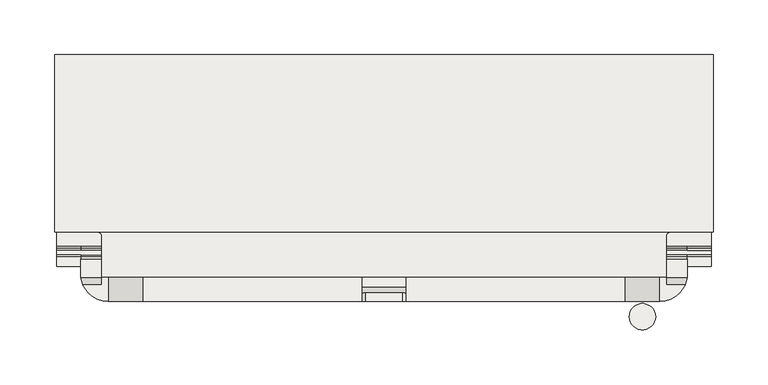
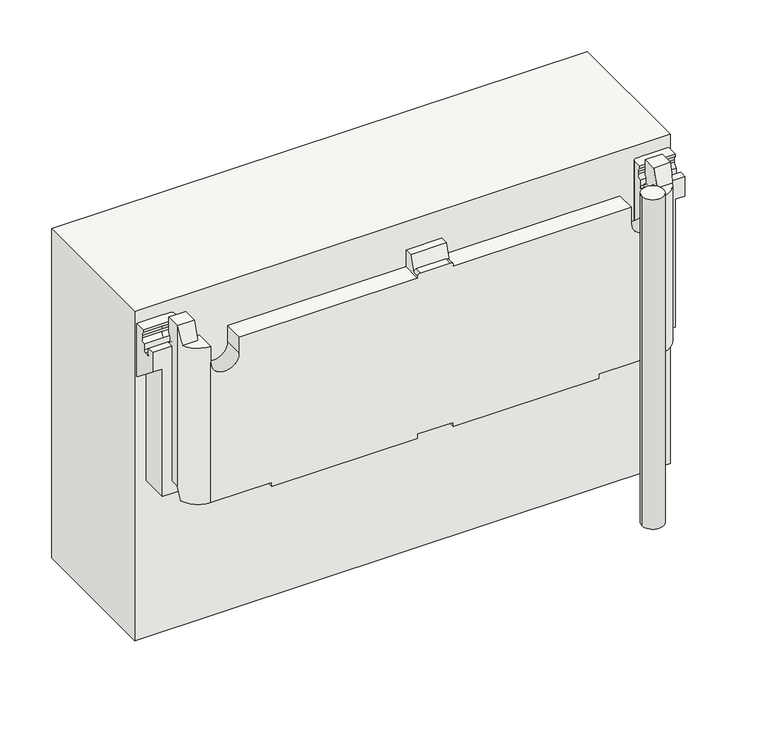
"""IFC4 building model written with IfcOpenShell, lengths in millimetres: covering geometry, panel VP Modulo prova ultima texture : panel VP Modulo prova ultima texture."""

from ifc_helpers import new_model, si_unit, point, frame, frame_2d, origin, origin_with_axes, place, context, project, spatial, polyline, circle_curve, ellipse_curve, trimmed, segment, composite_curve, outline, extrude, source, transform, mapped, element, save
from ifc_brep_helpers import plane_surface, cylinder_surface, revolved_surface, advanced_brep


def covering_14e27d56(model_context):
    return source(origin(), model_context, "Body", "SolidModel", [
        advanced_brep(
        [(-20.0, 40.503817, 390.3791993), (-20.0, 49.5015434, 390.3791993), (-20.0, 49.5015434, 370.3821425), (-20.0, 27.5015432, 370.3821425), (-20.0, 27.5015432, 372.3821424), (-20.0, 34.5021229, 372.3821424), (20.0, 49.5015434, 390.3791993), (20.0, 40.503817, 390.3791993), (20.0, 34.5021229, 372.3821424), (20.0, 27.5015432, 372.3821424), (20.0, 27.5015432, 370.3821425), (20.0, 49.5015434, 370.3821425), (-17.0, 35.5025688, 375.3821424), (17.0, 35.5025688, 375.3821424), (17.0, 27.5015432, 375.3821424), (-17.0, 27.5015432, 375.3821424), (-276.2404059, 49.5015434, 390.3770182), (-276.2404059, 65.772467, 390.3770182), (-276.2404059, 65.772467, 372.4339741), (-276.2404059, 63.7739273, 367.538463), (-276.2404059, 63.7739273, 364.538463), (-276.2404059, 67.7745502, 359.8422632), (-276.2404059, 59.5, 359.8422632), (-276.2404059, 59.5, 200.3778557), (-276.2404059, 49.5015434, 200.3778557), (276.2404059, 67.7745502, 359.8422632), (276.2404059, 63.7739273, 364.538463), (276.2404059, 63.7739273, 367.538463), (276.2404059, 65.772467, 372.4339741), (276.2404059, 65.772467, 390.3770182), (276.2404059, 49.5015434, 390.3770182), (276.2404059, 49.5015434, 200.3778557), (276.2404059, 59.5, 200.3778557), (276.2404059, 59.5, 359.8422632), (219.5404059, 27.5015432, 370.3821425), (219.5404059, 49.5015434, 370.3821425), (257.5404059, 42.6167555, 370.3821425), (257.5404059, 49.5015434, 370.3821425), (251.5404059, 49.5015434, 370.3821425), (251.5404059, 27.5015432, 370.3821425), (274.4146377, 42.6167555, 370.3821425), (-251.5404059, 27.5015432, 370.3821425), (-251.5404059, 49.5015434, 370.3821425), (-257.5404059, 49.5015434, 370.3821425), (-257.5404059, 42.6167555, 370.3821425), (-274.4146377, 42.6167555, 370.3821425), (-219.5404059, 49.5015434, 370.3821425), (-219.5404059, 27.5015432, 370.3821425), (-276.2404059, 109.8415131, 207.378532), (276.2404059, 109.8415131, 207.378532), (276.2404059, 141.2113001, 235.0190246), (-276.2404059, 141.2113001, 235.0190246), (-276.2404059, 147.3447094, 241.4812522), (276.2404059, 147.3447094, 241.4812522), (276.2404059, 184.4941844, 288.3639074), (-276.2404059, 184.4941844, 288.3639074), (276.2404059, 184.4941844, 315.3627622), (-276.2404059, 184.4941844, 315.3627622), (298.2404059, 184.4914281, 315.3627622), (298.2404059, 202.488872, 315.3627622), (-298.2404059, 202.488872, 315.3627622), (-298.2404059, 184.4914281, 315.3627622), (-298.2404059, 202.488872, 275.6494871), (298.2404059, 202.488872, 275.6494871), (276.2404059, 193.4423608, 234.2709563), (-276.2404059, 193.4423608, 234.2709563), (-298.2404059, 193.4423608, 234.2709563), (298.2404059, 193.4423608, 234.2709563), (276.2404059, 190.281945, 233.1432662), (-276.2404059, 190.281945, 233.1432662), (298.2404059, 190.281945, 233.1432662), (298.2404059, 59.5, 336.7739206), (287.2404059, 59.5, 336.7739206), (287.2404059, 180.2456216, 241.0959753), (276.2404059, 180.2456216, 241.0959753), (-276.2404059, 180.2456216, 241.0959753), (-287.2404059, 180.2456216, 241.0959753), (-287.2404059, 59.5, 336.7739206), (-298.2404059, 59.5, 336.7739206), (-298.2404059, 190.281945, 233.1432662), (276.2404059, 174.5899002, 240.4408933), (-276.2404059, 174.5899002, 240.4408933), (287.2404059, 174.5899002, 240.4408933), (287.2404059, 160.5878776, 222.7703691), (-287.2404059, 160.5878776, 222.7703691), (-287.2404059, 174.5899002, 240.4408933), (-287.2404059, 118.1414154, 185.3700156), (287.2404059, 118.1414154, 185.3700156), (251.5404059, 118.1414154, 185.3700156), (211.5404059, 118.1414154, 185.3700156), (20.0, 118.1414154, 185.3700156), (-20.0, 118.1414154, 185.3700156), (-211.5404059, 118.1414154, 185.3700156), (-251.5404059, 118.1414154, 185.3700156), (-287.2404059, 59.5, 185.3821441), (-251.5404059, 78.1414154, 185.3821441), (-211.5404059, 78.1414154, 185.3821441), (-20.0, 78.1414154, 185.3821441), (20.0, 78.1414154, 185.3821441), (211.5404059, 78.1414154, 185.3821441), (251.5404059, 78.1414154, 185.3821441), (287.2404059, 59.5, 185.3821441), (266.2404059, 59.5, 185.3821441), (266.2404059, 44.6291413, 185.3821441), (275.1714066, 44.6291413, 185.3821441), (251.5404059, 27.5015432, 185.3821441), (183.2404059, 27.5015432, 185.3821441), (183.2404059, 67.5015432, 185.3821441), (20.0, 67.5015432, 185.3821441), (20.0, 27.5015432, 185.3821441), (-20.0, 27.5015432, 185.3821441), (-20.0, 67.5015432, 185.3821441), (-183.2404059, 67.5015432, 185.3821441), (-183.2404059, 27.5015432, 185.3821441), (-251.5404059, 27.5015432, 185.3821441), (-275.1714066, 44.6291413, 185.3821441), (-266.2404059, 44.6291413, 185.3821441), (-266.2404059, 59.5, 185.3821441), (-219.5404059, 27.5015432, 351.3586119), (-251.5404059, 27.5015432, 351.3586119), (-183.2404059, 27.5015432, 180.3725587), (-20.0, 27.5015432, 180.3725587), (20.0, 27.5015432, 180.3725587), (183.2404059, 27.5015432, 180.3725587), (251.5404059, 27.5015432, 351.3586119), (219.5404059, 27.5015432, 351.3586119), (-251.5404059, 49.5015434, 351.3586119), (-219.5404059, 49.5015434, 351.3586119), (219.5404059, 49.5015434, 351.3586119), (251.5404059, 49.5015434, 351.3586119), (257.5404059, 49.5015434, 207.378532), (-257.5404059, 49.5015434, 207.378532), (-276.2404059, 101.3665857, 207.378532), (-265.6338042, 90.7599839, 207.378532), (-261.9338042, 90.7599839, 207.378532), (-257.5404059, 86.3665857, 207.378532), (257.5404059, 86.3665857, 207.378532), (261.9338042, 90.7599839, 207.378532), (265.6338042, 90.7599839, 207.378532), (276.2404059, 101.3665857, 207.378532), (-298.2404059, 59.5, 359.8422632), (-298.2404059, 67.7745502, 359.8422632), (-298.2404059, 67.7745502, 352.8424284), (-298.2404059, 69.7745502, 350.8424284), (-298.2404059, 74.0001297, 350.8424284), (-298.2404059, 76.0001297, 352.8424284), (-298.2404059, 76.0001297, 359.8422632), (-298.2404059, 80.0007527, 364.538463), (-298.2404059, 80.0007527, 367.538463), (-298.2404059, 78.002213, 372.4339741), (-298.2404059, 78.002213, 375.3856889), (-298.2404059, 115.166168, 375.3856889), (-298.2404059, 118.166168, 372.3856889), (-298.2404059, 118.166168, 356.1051366), (-298.2404059, 119.6447617, 353.5195374), (-276.2404059, 119.6447617, 353.5195374), (-276.2404059, 118.166168, 356.1051366), (-276.2404059, 118.166168, 372.3856889), (-276.2404059, 115.166168, 375.3856889), (-276.2404059, 101.3665857, 375.3856889), (-266.2404059, 59.5, 200.3778557), (-257.5404059, 67.7745502, 359.8422632), (-257.5404059, 67.7745502, 352.8424284), (-276.2404059, 67.7745502, 352.8424284), (-276.2404059, 69.7745502, 350.8424284), (-257.5404059, 69.7745502, 350.8424284), (-257.5404059, 74.0001297, 350.8424284), (-276.2404059, 74.0001297, 350.8424284), (-276.2404059, 76.0001297, 352.8424284), (-257.5404059, 76.0001297, 352.8424284), (-257.5404059, 76.0001297, 359.8422632), (-276.2404059, 76.0001297, 359.8422632), (-276.2404059, 80.0007527, 364.538463), (-257.5404059, 80.0007527, 364.538463), (-257.5404059, 80.0007527, 367.538463), (-276.2404059, 80.0007527, 367.538463), (-276.2404059, 78.002213, 372.4339741), (-257.5404059, 78.002213, 372.4339741), (-257.5404059, 78.002213, 375.3856889), (-257.5404059, 86.3665857, 375.3856889), (-261.9338042, 90.7599839, 375.3856889), (-265.6338042, 90.7599839, 375.3856889), (-257.5404059, 63.7739273, 364.538463), (-257.5404059, 63.7739273, 367.538463), (-257.5404059, 65.772467, 372.4339741), (-257.5404059, 65.772467, 390.3770182), (-257.5404059, 49.5015434, 390.3770182), (298.2404059, 119.6447617, 353.5195374), (298.2404059, 118.166168, 356.1051366), (298.2404059, 118.166168, 372.3856889), (298.2404059, 115.166168, 375.3856889), (298.2404059, 78.002213, 375.3856889), (298.2404059, 78.002213, 372.4339741), (298.2404059, 80.0007527, 367.538463), (298.2404059, 80.0007527, 364.538463), (298.2404059, 76.0001297, 359.8422632), (298.2404059, 76.0001297, 352.8424284), (298.2404059, 74.0001297, 350.8424284), (298.2404059, 69.7745502, 350.8424284), (298.2404059, 67.7745502, 352.8424284), (298.2404059, 67.7745502, 359.8422632), (298.2404059, 59.5, 359.8422632), (276.2404059, 115.166168, 375.3856889), (276.2404059, 118.166168, 372.3856889), (276.2404059, 118.166168, 356.1051366), (276.2404059, 119.6447617, 353.5195374), (276.2404059, 101.3665857, 375.3856889), (266.2404059, 59.5, 200.3778557), (276.2404059, 69.7745502, 350.8424284), (276.2404059, 67.7745502, 352.8424284), (276.2404059, 76.0001297, 352.8424284), (276.2404059, 74.0001297, 350.8424284), (276.2404059, 80.0007527, 364.538463), (276.2404059, 76.0001297, 359.8422632), (276.2404059, 78.002213, 372.4339741), (276.2404059, 80.0007527, 367.538463), (257.5404059, 49.5015434, 390.3770182), (257.5404059, 65.772467, 390.3770182), (257.5404059, 65.772467, 372.4339741), (257.5404059, 63.7739273, 367.538463), (257.5404059, 63.7739273, 364.538463), (257.5404059, 67.7745502, 359.8422632), (257.5404059, 67.7745502, 352.8424284), (257.5404059, 69.7745502, 350.8424284), (257.5404059, 74.0001297, 350.8424284), (257.5404059, 76.0001297, 352.8424284), (257.5404059, 76.0001297, 359.8422632), (257.5404059, 80.0007527, 364.538463), (257.5404059, 80.0007527, 367.538463), (257.5404059, 78.002213, 372.4339741), (257.5404059, 78.002213, 375.3856889), (257.5404059, 86.3665857, 375.3856889), (265.6338042, 90.7599839, 375.3856889), (261.9338042, 90.7599839, 375.3856889), (251.5404059, 78.1414154, 180.3725587), (211.5404059, 78.1414154, 180.3725587), (211.5404059, 118.1414154, 180.3725587), (251.5404059, 118.1414154, 180.3725587), (-20.0, 78.1414154, 180.3725587), (-20.0, 118.1414154, 180.3725587), (20.0, 118.1414154, 180.3725587), (20.0, 78.1414154, 180.3725587), (-251.5404059, 78.1414154, 180.3725587), (-251.5404059, 118.1414154, 180.3725587), (-211.5404059, 118.1414154, 180.3725587), (-211.5404059, 78.1414154, 180.3725587), (20.0, 67.5015432, 180.3725587), (183.2404059, 67.5015432, 180.3725587), (-20.0, 67.5015432, 180.3725587), (-183.2404059, 67.5015432, 180.3725587), (-266.2404059, 49.5015434, 200.3778557), (266.2404059, 49.5015434, 200.3778557)],
        [
            (0, 1),
            (1, 2),
            (2, 3),
            (3, 4),
            (4, 5),
            (5, 0),
            (6, 7),
            (7, 8),
            (8, 9),
            (9, 10),
            (10, 11),
            (11, 6),
            (0, 7),
            (6, 1),
            (5, 12, ellipse_curve(frame((-17.0, 34.5021229, 372.3821424), z_axis=(0.0, 0.9486409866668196, -0.31635467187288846), x_axis=(0.0, 0.31635467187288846, 0.9486409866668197)), 3.1624187, 3.0)),
            (12, 13),
            (13, 8, ellipse_curve(frame((17.0, 34.5021229, 372.3821424), z_axis=(0.0, 0.9486409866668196, -0.31635467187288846), x_axis=(0.0, 0.31635467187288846, 0.9486409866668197)), 3.1624187, 3.0)),
            (14, 9, circle_curve(frame((17.0, 27.5015432, 372.3821424), z_axis=(0.0, 1.0, 0.0), x_axis=(-1.0, 0.0, 0.0)), 3.0)),
            (13, 14),
            (4, 15, circle_curve(frame((-17.0, 27.5015432, 372.3821424), z_axis=(0.0, 1.0, 0.0), x_axis=(-1.0, 0.0, 0.0)), 3.0)),
            (15, 12),
            (15, 14),
            (16, 17),
            (17, 18),
            (18, 19, circle_curve(frame((-276.2404059, 70.7690822, 367.538463), z_axis=(1.0, 0.0, 0.0), x_axis=(0.0, -1.0, 0.0)), 6.9951549)),
            (19, 20),
            (20, 21, circle_curve(frame((-276.2404059, 68.5305961, 364.538463), z_axis=(1.0, 0.0, 0.0), x_axis=(0.0, -1.0, 0.0)), 4.7566689)),
            (21, 22),
            (22, 23),
            (23, 24),
            (24, 16),
            (25, 26, circle_curve(frame((276.2404059, 68.5305961, 364.538463), z_axis=(-1.0, 0.0, 0.0), x_axis=(0.0, -1.0, 0.0)), 4.7566689)),
            (26, 27),
            (27, 28, circle_curve(frame((276.2404059, 70.7690822, 367.538463), z_axis=(-1.0, 0.0, 0.0), x_axis=(0.0, -1.0, 0.0)), 6.9951549)),
            (28, 29),
            (29, 30),
            (30, 31),
            (31, 32),
            (32, 33),
            (33, 25),
            (10, 34),
            (34, 35),
            (35, 11),
            (36, 37),
            (37, 38),
            (38, 39),
            (39, 40, circle_curve(frame((251.5404059, 52.367225, 370.3821425), z_axis=(0.0, 0.0, 1.0), x_axis=(1.0, 0.0, 0.0)), 24.8656818)),
            (40, 36),
            (41, 42),
            (42, 43),
            (43, 44),
            (44, 45),
            (45, 41, circle_curve(frame((-251.5404059, 52.367225, 370.3821425), z_axis=(0.0, 0.0, 1.0), x_axis=(-1.0, 0.0, 0.0)), 24.8656818)),
            (46, 47),
            (47, 3),
            (2, 46),
            (48, 49),
            (49, 50),
            (50, 51),
            (51, 48),
            (52, 53),
            (53, 54),
            (54, 55),
            (55, 52),
            (54, 56),
            (56, 57),
            (57, 55),
            (56, 58),
            (58, 59),
            (59, 60),
            (60, 61),
            (61, 57),
            (62, 60),
            (59, 63),
            (63, 62),
            (64, 65),
            (65, 66),
            (66, 62),
            (63, 67),
            (67, 64),
            (64, 68, circle_curve(frame((276.2404059, 191.5102381, 234.6933727), z_axis=(-1.0, 0.0, 0.0), x_axis=(0.0, -1.0, 0.0)), 1.9777598)),
            (68, 69),
            (69, 65, circle_curve(frame((-276.2404059, 191.5102381, 234.6933727), z_axis=(1.0, 0.0, 0.0), x_axis=(0.0, -1.0, 0.0)), 1.9777598)),
            (68, 70),
            (70, 71),
            (71, 72),
            (72, 73),
            (73, 74),
            (74, 75),
            (75, 76),
            (76, 77),
            (77, 78),
            (78, 79),
            (79, 69),
            (74, 80, circle_curve(frame((276.2404059, 177.7453022, 237.9405708), z_axis=(1.0, 0.0, 0.0), x_axis=(0.0, -1.0, 0.0)), 4.0259377)),
            (80, 81),
            (81, 75, circle_curve(frame((-276.2404059, 177.7453022, 237.9405708), z_axis=(-1.0, 0.0, 0.0), x_axis=(0.0, -1.0, 0.0)), 4.0259377)),
            (80, 82),
            (82, 83),
            (83, 84),
            (84, 85),
            (85, 81),
            (86, 84),
            (83, 87),
            (87, 88),
            (88, 89),
            (89, 90),
            (90, 91),
            (91, 92),
            (92, 93),
            (93, 86),
            (50, 53, circle_curve(frame((276.2404059, 108.1562691, 272.5338873), z_axis=(1.0, 0.0, 0.0), x_axis=(0.0, -1.0, 0.0)), 50.0)),
            (52, 51, circle_curve(frame((-276.2404059, 108.1562691, 272.5338873), z_axis=(-1.0, 0.0, 0.0), x_axis=(0.0, -1.0, 0.0)), 50.0)),
            (94, 86),
            (93, 95),
            (95, 96),
            (96, 92),
            (91, 97),
            (97, 98),
            (98, 90),
            (89, 99),
            (99, 100),
            (100, 88),
            (87, 101),
            (101, 102),
            (102, 103),
            (103, 104),
            (104, 105, circle_curve(frame((251.5404059, 52.367225, 185.3821441), z_axis=(0.0, 0.0, -1.0), x_axis=(1.0, 0.0, 0.0)), 24.8656818)),
            (105, 106),
            (106, 107),
            (107, 108),
            (108, 109),
            (109, 110),
            (110, 111),
            (111, 112),
            (112, 113),
            (113, 114),
            (114, 115, circle_curve(frame((-251.5404059, 52.367225, 185.3821441), z_axis=(0.0, 0.0, -1.0), x_axis=(-1.0, 0.0, 0.0)), 24.8656818)),
            (115, 116),
            (116, 117),
            (117, 94),
            (47, 118),
            (118, 119, circle_curve(frame((-235.5404059, 27.5015432, 351.3586119), z_axis=(0.0, 1.0, 0.0), x_axis=(-1.0, 0.0, 0.0)), 16.0)),
            (119, 114),
            (113, 120),
            (120, 121),
            (121, 110),
            (109, 122),
            (122, 123),
            (123, 106),
            (105, 124),
            (124, 125, circle_curve(frame((235.5404059, 27.5015432, 351.3586119), z_axis=(0.0, 1.0, 0.0), x_axis=(1.0, 0.0, 0.0)), 16.0)),
            (125, 34),
            (42, 126),
            (126, 127, circle_curve(frame((-235.5404059, 49.5015434, 351.3586119), z_axis=(0.0, -1.0, 0.0), x_axis=(-1.0, 0.0, 0.0)), 16.0)),
            (127, 46),
            (35, 128),
            (128, 129, circle_curve(frame((235.5404059, 49.5015434, 351.3586119), z_axis=(0.0, -1.0, 0.0), x_axis=(1.0, 0.0, 0.0)), 16.0)),
            (129, 38),
            (37, 130),
            (130, 131),
            (131, 43),
            (48, 132),
            (132, 133, circle_curve(frame((-265.6338042, 101.3665857, 207.378532), z_axis=(0.0, 0.0, 1.0), x_axis=(-1.0, 0.0, 0.0)), 10.6066017)),
            (133, 134),
            (134, 135, circle_curve(frame((-261.9338042, 86.3665857, 207.378532), z_axis=(0.0, 0.0, -1.0), x_axis=(-1.0, 0.0, 0.0)), 4.3933983)),
            (135, 131),
            (130, 136),
            (136, 137, circle_curve(frame((261.9338042, 86.3665857, 207.378532), z_axis=(0.0, 0.0, -1.0), x_axis=(1.0, 0.0, 0.0)), 4.3933983)),
            (137, 138),
            (138, 139, circle_curve(frame((265.6338042, 101.3665857, 207.378532), z_axis=(0.0, 0.0, 1.0), x_axis=(1.0, 0.0, 0.0)), 10.6066017)),
            (139, 49),
            (66, 79, circle_curve(frame((-298.2404059, 191.5102381, 234.6933727), z_axis=(-1.0, 0.0, 0.0), x_axis=(0.0, -1.0, 0.0)), 1.9777598)),
            (78, 140),
            (140, 141),
            (141, 142),
            (142, 143, circle_curve(frame((-298.2404059, 69.7745502, 352.8424284), z_axis=(1.0, 0.0, 0.0), x_axis=(0.0, -1.0, 0.0)), 2.0)),
            (143, 144),
            (144, 145, circle_curve(frame((-298.2404059, 74.0001297, 352.8424284), z_axis=(1.0, 0.0, 0.0), x_axis=(0.0, -1.0, 0.0)), 2.0)),
            (145, 146),
            (146, 147, circle_curve(frame((-298.2404059, 75.2440838, 364.538463), z_axis=(1.0, 0.0, 0.0), x_axis=(0.0, -1.0, 0.0)), 4.7566689)),
            (147, 148),
            (148, 149, circle_curve(frame((-298.2404059, 73.0055977, 367.538463), z_axis=(1.0, 0.0, 0.0), x_axis=(0.0, -1.0, 0.0)), 6.9951549)),
            (149, 150),
            (150, 151),
            (151, 152, circle_curve(frame((-298.2404059, 115.166168, 372.3856889), z_axis=(-1.0, 0.0, 0.0), x_axis=(0.0, -1.0, 0.0)), 3.0)),
            (152, 153),
            (153, 154, circle_curve(frame((-298.2404059, 121.166168, 356.1051366), z_axis=(1.0, 0.0, 0.0), x_axis=(0.0, -1.0, 0.0)), 3.0)),
            (154, 61),
            (57, 155),
            (155, 156, circle_curve(frame((-276.2404059, 121.166168, 356.1051366), z_axis=(-1.0, 0.0, 0.0), x_axis=(0.0, -1.0, 0.0)), 3.0)),
            (156, 157),
            (157, 158, circle_curve(frame((-276.2404059, 115.166168, 372.3856889), z_axis=(1.0, 0.0, 0.0), x_axis=(0.0, -1.0, 0.0)), 3.0)),
            (158, 159),
            (159, 132),
            (77, 94),
            (117, 160),
            (160, 23),
            (22, 140),
            (141, 21),
            (21, 161),
            (161, 162),
            (162, 163),
            (163, 142),
            (163, 164, circle_curve(frame((-276.2404059, 69.7745502, 352.8424284), z_axis=(1.0, 0.0, 0.0), x_axis=(0.0, -1.0, 0.0)), 2.0)),
            (164, 143),
            (164, 165),
            (165, 166),
            (166, 167),
            (167, 144),
            (167, 168, circle_curve(frame((-276.2404059, 74.0001297, 352.8424284), z_axis=(1.0, 0.0, 0.0), x_axis=(0.0, -1.0, 0.0)), 2.0)),
            (168, 145),
            (168, 169),
            (169, 170),
            (170, 171),
            (171, 146),
            (171, 172, circle_curve(frame((-276.2404059, 75.2440838, 364.538463), z_axis=(1.0, 0.0, 0.0), x_axis=(0.0, -1.0, 0.0)), 4.7566689)),
            (172, 147),
            (172, 173),
            (173, 174),
            (174, 175),
            (175, 148),
            (175, 176, circle_curve(frame((-276.2404059, 73.0055977, 367.538463), z_axis=(1.0, 0.0, 0.0), x_axis=(0.0, -1.0, 0.0)), 6.9951549)),
            (176, 149),
            (176, 177),
            (177, 178),
            (178, 150),
            (178, 179),
            (179, 180, circle_curve(frame((-261.9338042, 86.3665857, 375.3856889), z_axis=(0.0, 0.0, 1.0), x_axis=(-1.0, 0.0, 0.0)), 4.3933983)),
            (180, 181),
            (181, 159, circle_curve(frame((-265.6338042, 101.3665857, 375.3856889), z_axis=(0.0, 0.0, -1.0), x_axis=(-1.0, 0.0, 0.0)), 10.6066017)),
            (158, 151),
            (157, 152),
            (156, 153),
            (155, 154),
            (76, 85, circle_curve(frame((-287.2404059, 177.7453022, 237.9405708), z_axis=(1.0, 0.0, 0.0), x_axis=(0.0, -1.0, 0.0)), 4.0259377)),
            (45, 16, ellipse_curve(frame((-251.5404059, 52.367225, 398.6995619), z_axis=(0.0, 0.9455185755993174, -0.32556815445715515), x_axis=(0.0, -0.3255681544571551, -0.9455185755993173)), 76.3762716, 24.8656818)),
            (24, 115, ellipse_curve(frame((-251.5404059, 52.367225, 209.1975168), z_axis=(0.0, -0.9510565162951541, 0.3090169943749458), x_axis=(0.0, -0.30901699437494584, -0.9510565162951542)), 80.4670366, 24.8656818)),
            (119, 41),
            (177, 174, circle_curve(frame((-257.5404059, 73.0055977, 367.538463), z_axis=(-1.0, 0.0, 0.0), x_axis=(0.0, -1.0, 0.0)), 6.9951549)),
            (173, 170, circle_curve(frame((-257.5404059, 75.2440838, 364.538463), z_axis=(-1.0, 0.0, 0.0), x_axis=(0.0, -1.0, 0.0)), 4.7566689)),
            (169, 166, circle_curve(frame((-257.5404059, 74.0001297, 352.8424284), z_axis=(-1.0, 0.0, 0.0), x_axis=(0.0, -1.0, 0.0)), 2.0)),
            (165, 162, circle_curve(frame((-257.5404059, 69.7745502, 352.8424284), z_axis=(-1.0, 0.0, 0.0), x_axis=(0.0, -1.0, 0.0)), 2.0)),
            (161, 182, circle_curve(frame((-257.5404059, 68.5305961, 364.538463), z_axis=(-1.0, 0.0, 0.0), x_axis=(0.0, -1.0, 0.0)), 4.7566689)),
            (182, 183),
            (183, 184, circle_curve(frame((-257.5404059, 70.7690822, 367.538463), z_axis=(-1.0, 0.0, 0.0), x_axis=(0.0, -1.0, 0.0)), 6.9951549)),
            (184, 185),
            (185, 186),
            (186, 44),
            (135, 179),
            (16, 186),
            (185, 17),
            (184, 18),
            (183, 19),
            (182, 20),
            (134, 180),
            (133, 181),
            (39, 124),
            (104, 31, ellipse_curve(frame((251.5404059, 52.367225, 209.1975168), z_axis=(0.0, -0.9510565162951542, 0.3090169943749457), x_axis=(0.0, -0.3090169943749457, -0.9510565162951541)), 80.4670366, 24.8656818)),
            (30, 40, ellipse_curve(frame((251.5404059, 52.367225, 398.6995619), z_axis=(0.0, 0.9455185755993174, -0.3255681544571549), x_axis=(0.0, -0.3255681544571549, -0.9455185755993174)), 76.3762716, 24.8656818)),
            (58, 187),
            (187, 188, circle_curve(frame((298.2404059, 121.166168, 356.1051366), z_axis=(-1.0, 0.0, 0.0), x_axis=(0.0, -1.0, 0.0)), 3.0)),
            (188, 189),
            (189, 190, circle_curve(frame((298.2404059, 115.166168, 372.3856889), z_axis=(1.0, 0.0, 0.0), x_axis=(0.0, -1.0, 0.0)), 3.0)),
            (190, 191),
            (191, 192),
            (192, 193, circle_curve(frame((298.2404059, 73.0055977, 367.538463), z_axis=(-1.0, 0.0, 0.0), x_axis=(0.0, -1.0, 0.0)), 6.9951549)),
            (193, 194),
            (194, 195, circle_curve(frame((298.2404059, 75.2440838, 364.538463), z_axis=(-1.0, 0.0, 0.0), x_axis=(0.0, -1.0, 0.0)), 4.7566689)),
            (195, 196),
            (196, 197, circle_curve(frame((298.2404059, 74.0001297, 352.8424284), z_axis=(-1.0, 0.0, 0.0), x_axis=(0.0, -1.0, 0.0)), 2.0)),
            (197, 198),
            (198, 199, circle_curve(frame((298.2404059, 69.7745502, 352.8424284), z_axis=(-1.0, 0.0, 0.0), x_axis=(0.0, -1.0, 0.0)), 2.0)),
            (199, 200),
            (200, 201),
            (201, 71),
            (70, 67, circle_curve(frame((298.2404059, 191.5102381, 234.6933727), z_axis=(1.0, 0.0, 0.0), x_axis=(0.0, -1.0, 0.0)), 1.9777598)),
            (202, 203, circle_curve(frame((276.2404059, 115.166168, 372.3856889), z_axis=(-1.0, 0.0, 0.0), x_axis=(0.0, -1.0, 0.0)), 3.0)),
            (203, 204),
            (204, 205, circle_curve(frame((276.2404059, 121.166168, 356.1051366), z_axis=(1.0, 0.0, 0.0), x_axis=(0.0, -1.0, 0.0)), 3.0)),
            (205, 56),
            (139, 206),
            (206, 202),
            (201, 33),
            (32, 207),
            (207, 102),
            (101, 72),
            (198, 208),
            (208, 209, circle_curve(frame((276.2404059, 69.7745502, 352.8424284), z_axis=(-1.0, 0.0, 0.0), x_axis=(0.0, -1.0, 0.0)), 2.0)),
            (209, 199),
            (196, 210),
            (210, 211, circle_curve(frame((276.2404059, 74.0001297, 352.8424284), z_axis=(-1.0, 0.0, 0.0), x_axis=(0.0, -1.0, 0.0)), 2.0)),
            (211, 197),
            (194, 212),
            (212, 213, circle_curve(frame((276.2404059, 75.2440838, 364.538463), z_axis=(-1.0, 0.0, 0.0), x_axis=(0.0, -1.0, 0.0)), 4.7566689)),
            (213, 195),
            (192, 214),
            (214, 215, circle_curve(frame((276.2404059, 73.0055977, 367.538463), z_axis=(-1.0, 0.0, 0.0), x_axis=(0.0, -1.0, 0.0)), 6.9951549)),
            (215, 193),
            (189, 203),
            (202, 190),
            (188, 204),
            (187, 205),
            (200, 25),
            (36, 216),
            (216, 217),
            (217, 218),
            (218, 219, circle_curve(frame((257.5404059, 70.7690822, 367.538463), z_axis=(1.0, 0.0, 0.0), x_axis=(0.0, -1.0, 0.0)), 6.9951549)),
            (219, 220),
            (220, 221, circle_curve(frame((257.5404059, 68.5305961, 364.538463), z_axis=(1.0, 0.0, 0.0), x_axis=(0.0, -1.0, 0.0)), 4.7566689)),
            (221, 222),
            (222, 223, circle_curve(frame((257.5404059, 69.7745502, 352.8424284), z_axis=(1.0, 0.0, 0.0), x_axis=(0.0, -1.0, 0.0)), 2.0)),
            (223, 224),
            (224, 225, circle_curve(frame((257.5404059, 74.0001297, 352.8424284), z_axis=(1.0, 0.0, 0.0), x_axis=(0.0, -1.0, 0.0)), 2.0)),
            (225, 226),
            (226, 227, circle_curve(frame((257.5404059, 75.2440838, 364.538463), z_axis=(1.0, 0.0, 0.0), x_axis=(0.0, -1.0, 0.0)), 4.7566689)),
            (227, 228),
            (228, 229, circle_curve(frame((257.5404059, 73.0055977, 367.538463), z_axis=(1.0, 0.0, 0.0), x_axis=(0.0, -1.0, 0.0)), 6.9951549)),
            (229, 230),
            (230, 231),
            (231, 136),
            (221, 25),
            (209, 222),
            (208, 223),
            (29, 217),
            (216, 30),
            (28, 218),
            (27, 219),
            (26, 220),
            (211, 224),
            (210, 225),
            (213, 226),
            (212, 227),
            (215, 228),
            (214, 229),
            (191, 230),
            (206, 232, circle_curve(frame((265.6338042, 101.3665857, 375.3856889), z_axis=(0.0, 0.0, -1.0), x_axis=(1.0, 0.0, 0.0)), 10.6066017)),
            (232, 233),
            (233, 231, circle_curve(frame((261.9338042, 86.3665857, 375.3856889), z_axis=(0.0, 0.0, 1.0), x_axis=(1.0, 0.0, 0.0)), 4.3933983)),
            (233, 137),
            (232, 138),
            (119, 126),
            (127, 118),
            (129, 124),
            (125, 128),
            (82, 73, circle_curve(frame((287.2404059, 177.7453022, 237.9405708), z_axis=(-1.0, 0.0, 0.0), x_axis=(0.0, -1.0, 0.0)), 4.0259377)),
            (234, 235),
            (235, 236),
            (236, 237),
            (237, 234),
            (234, 100),
            (99, 235),
            (89, 236),
            (88, 237),
            (238, 239),
            (239, 240),
            (240, 241),
            (241, 238),
            (241, 98),
            (97, 238),
            (240, 90),
            (239, 91),
            (242, 243),
            (243, 244),
            (244, 245),
            (245, 242),
            (245, 96),
            (95, 242),
            (244, 92),
            (243, 93),
            (246, 247),
            (247, 123),
            (122, 246),
            (248, 121),
            (120, 249),
            (249, 248),
            (108, 246),
            (247, 107),
            (249, 112),
            (111, 248),
            (250, 160),
            (116, 250),
            (250, 24),
            (251, 103),
            (207, 251),
            (31, 251),
        ],
        [
            plane_surface(frame((-20.0, 49.5042184, 390.3791993), z_axis=(-1.0, 0.0, 0.0), x_axis=(0.0, 1.0, 0.0))),
            plane_surface(frame((20.0, 49.5042184, 390.3791993), z_axis=(1.0, 0.0, 0.0), x_axis=(0.0, -1.0, 0.0))),
            plane_surface(frame((-20.0, 40.503817, 390.3791993), z_axis=(0.0, 0.0, 1.0), x_axis=(1.0, 0.0, 0.0))),
            plane_surface(frame((-20.0, 33.835159, 370.3821425), z_axis=(0.0, -0.9486409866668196, 0.31635467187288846), x_axis=(1.0, 0.0, 0.0))),
            cylinder_surface(frame((17.0, 27.5015432, 372.3821424), z_axis=(0.0, 1.0, 0.0), x_axis=(-1.0, 0.0, 0.0)), 3.0),
            cylinder_surface(frame((-17.0, 27.5015432, 372.3821424), z_axis=(0.0, 1.0, 0.0), x_axis=(-1.0, 0.0, 0.0)), 3.0),
            plane_surface(frame((-17.0, 49.501543, 375.3821424), z_axis=(0.0, 0.0, 1.0), x_axis=(0.0, -1.0, 0.0))),
            plane_surface(frame((-276.2404059, 118.1414154, 185.3700156), z_axis=(-1.0, 0.0, 0.0), x_axis=(0.0, -0.7502972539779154, -0.6611006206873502))),
            plane_surface(frame((276.2404059, 118.1414154, 185.3700156), z_axis=(1.0, 0.0, 0.0), x_axis=(0.0, 0.7502972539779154, 0.6611006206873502))),
            plane_surface(frame((-276.2404059, 27.5015432, 370.3821425), z_axis=(0.0, 0.0, 1.0), x_axis=(1.0, 0.0, 0.0))),
            plane_surface(frame((-276.2404059, 109.8415131, 207.378532), z_axis=(0.0, -0.6611006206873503, 0.7502972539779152), x_axis=(1.0, 0.0, 0.0))),
            plane_surface(frame((-276.2404059, 147.3447094, 241.4812522), z_axis=(0.0, -0.7837688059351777, 0.6210527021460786), x_axis=(1.0, 0.0, 0.0))),
            plane_surface(frame((-276.2404059, 184.4941844, 288.3639074), z_axis=(0.0, -1.0, 0.0), x_axis=(1.0, 0.0, 0.0))),
            plane_surface(frame((-276.2404059, 184.4941844, 315.3627622), z_axis=(0.0, 0.0, 1.0), x_axis=(1.0, 0.0, 0.0))),
            plane_surface(frame((-276.2404059, 202.488872, 315.3627622), z_axis=(0.0, 1.0, 0.0), x_axis=(1.0, 0.0, 0.0))),
            plane_surface(frame((-276.2404059, 202.488872, 275.6494871), z_axis=(0.0, 0.9769248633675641, -0.21358326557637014), x_axis=(1.0, 0.0, 0.0))),
            cylinder_surface(frame((276.2404059, 191.5102381, 234.6933727), z_axis=(-1.0, 0.0, 0.0), x_axis=(0.0, -1.0, 0.0)), 1.9777598),
            plane_surface(frame((-276.2404059, 190.281945, 233.1432662), z_axis=(0.0, -0.6210526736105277, -0.7837688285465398), x_axis=(1.0, 0.0, 0.0))),
            revolved_surface(polyline([(276.2404059, 173.71936449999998, 237.9405708), (-276.2404059, 173.71936449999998, 237.9405708)]), (276.2404059, 177.7453022, 237.9405708), (1.0, 0.0, 0.0)),
            plane_surface(frame((-276.2404059, 174.5899002, 240.4408933), z_axis=(0.0, 0.7837682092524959, -0.6210534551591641), x_axis=(1.0, 0.0, 0.0))),
            plane_surface(frame((-276.2404059, 160.5878776, 222.7703691), z_axis=(0.0, 0.6611006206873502, -0.7502972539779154), x_axis=(1.0, 0.0, 0.0))),
            revolved_surface(polyline([(276.2404059, 58.1562691, 272.5338873), (-276.2404059, 58.1562691, 272.5338873)]), (276.2404059, 108.1562691, 272.5338873), (1.0, 0.0, 0.0)),
            plane_surface(frame((-276.2404059, 118.1551803, 185.3821441), z_axis=(0.0, 0.0, -1.0), x_axis=(1.0, 0.0, 0.0))),
            plane_surface(frame((-276.2404059, 27.5015432, 185.3821441), z_axis=(0.0, -1.0, 0.0), x_axis=(1.0, 0.0, 0.0))),
            plane_surface(frame((-276.2404059, 49.5015434, 370.3821425), z_axis=(0.0, 1.0, 0.0), x_axis=(1.0, 0.0, 0.0))),
            plane_surface(frame((-276.2404059, 49.5015434, 207.378532), z_axis=(0.0, 0.0, 1.0), x_axis=(1.0, 0.0, 0.0))),
            plane_surface(frame((-298.2404059, 202.488872, 275.6494871), z_axis=(-1.0000000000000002, 0.0, 0.0), x_axis=(0.0, -0.21358326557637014, -0.9769248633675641))),
            plane_surface(frame((-276.2404059, 202.488872, 275.6494871), z_axis=(1.0000000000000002, 0.0, 0.0), x_axis=(0.0, 0.21358326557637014, 0.9769248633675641))),
            cylinder_surface(frame((-276.2404059, 191.5102381, 234.6933727), z_axis=(-1.0, 0.0, 0.0), x_axis=(0.0, -1.0, 0.0)), 1.9777598),
            plane_surface(frame((-298.2404059, 59.5, 336.7739206), z_axis=(0.0, -1.0, 0.0), x_axis=(1.0, 0.0, 0.0))),
            plane_surface(frame((-298.2404059, 67.7745502, 359.8422632), z_axis=(0.0, 1.0, 0.0), x_axis=(1.0, 0.0, 0.0))),
            revolved_surface(polyline([(-276.2404059, 67.7745502, 352.8424284), (-298.2404059, 67.7745502, 352.8424284)]), (-276.2404059, 69.7745502, 352.8424284), (1.0, 0.0, 0.0)),
            plane_surface(frame((-298.2404059, 69.7745502, 350.8424284), z_axis=(0.0, 0.0, 1.0), x_axis=(1.0, 0.0, 0.0))),
            revolved_surface(polyline([(-276.2404059, 72.0001297, 352.8424284), (-298.2404059, 72.0001297, 352.8424284)]), (-276.2404059, 74.0001297, 352.8424284), (1.0, 0.0, 0.0)),
            plane_surface(frame((-298.2404059, 76.0001297, 352.8424284), z_axis=(0.0, -1.0, 0.0), x_axis=(1.0, 0.0, 0.0))),
            revolved_surface(polyline([(-276.2404059, 70.4874149, 364.538463), (-298.2404059, 70.4874149, 364.538463)]), (-276.2404059, 75.2440838, 364.538463), (1.0, 0.0, 0.0)),
            plane_surface(frame((-298.2404059, 80.0007527, 364.538463), z_axis=(0.0, -1.0, 0.0), x_axis=(1.0, 0.0, 0.0))),
            revolved_surface(polyline([(-276.2404059, 66.01044279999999, 367.538463), (-298.2404059, 66.01044279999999, 367.538463)]), (-276.2404059, 73.0055977, 367.538463), (1.0, 0.0, 0.0)),
            plane_surface(frame((-298.2404059, 78.002213, 372.4339741), z_axis=(0.0, -1.0, 0.0), x_axis=(1.0, 0.0, 0.0))),
            plane_surface(frame((-298.2404059, 78.002213, 375.3856889), z_axis=(0.0, 0.0, 1.0), x_axis=(1.0, 0.0, 0.0))),
            cylinder_surface(frame((-276.2404059, 115.166168, 372.3856889), z_axis=(-1.0, 0.0, 0.0), x_axis=(0.0, -1.0, 0.0)), 3.0),
            plane_surface(frame((-298.2404059, 118.166168, 372.3856889), z_axis=(0.0, 1.0, 0.0), x_axis=(1.0, 0.0, 0.0))),
            revolved_surface(polyline([(-276.2404059, 118.166168, 356.1051366), (-298.2404059, 118.166168, 356.1051366)]), (-276.2404059, 121.166168, 356.1051366), (1.0, 0.0, 0.0)),
            plane_surface(frame((-298.2404059, 119.6447617, 353.5195374), z_axis=(0.0, 0.5071354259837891, 0.8618663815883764), x_axis=(1.0, 0.0, 0.0))),
            plane_surface(frame((-298.2404059, 59.5, 359.8422632), z_axis=(0.0, 0.0, 1.0), x_axis=(1.0, 0.0, 0.0))),
            plane_surface(frame((-287.2404059, 174.5899002, 240.4408933), z_axis=(-1.0, 0.0, 0.0), x_axis=(0.0, -0.6210534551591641, -0.7837682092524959))),
            revolved_surface(polyline([(-276.2404059, 173.71936449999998, 237.9405708), (-287.2404059, 173.71936449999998, 237.9405708)]), (-276.2404059, 177.7453022, 237.9405708), (1.0, 0.0, 0.0)),
            cylinder_surface(frame((-251.5404059, 52.367225, 180.3725587), z_axis=(0.0, 0.0, -1.0), x_axis=(-1.0, 0.0, 0.0)), 24.8656818),
            plane_surface(frame((-257.5404059, 33.2976457, 370.3821425), z_axis=(1.0, 0.0, 0.0), x_axis=(0.0, 1.0, 0.0))),
            revolved_surface(polyline([(-257.5404059, 67.7745502, 352.8424284), (-276.2404059, 67.7745502, 352.8424284)]), (-257.5404059, 69.7745502, 352.8424284), (1.0, 0.0, 0.0)),
            plane_surface(frame((-276.2404059, 49.5015434, 390.3770182), z_axis=(0.0, 0.0, 1.0), x_axis=(1.0, 0.0, 0.0))),
            plane_surface(frame((-276.2404059, 65.772467, 390.3770182), z_axis=(0.0, 1.0, 0.0), x_axis=(1.0, 0.0, 0.0))),
            revolved_surface(polyline([(-257.5404059, 63.7739273, 367.538463), (-276.2404059, 63.7739273, 367.538463)]), (-257.5404059, 70.7690822, 367.538463), (1.0, 0.0, 0.0)),
            plane_surface(frame((-276.2404059, 63.7739273, 367.538463), z_axis=(0.0, 1.0, 0.0), x_axis=(1.0, 0.0, 0.0))),
            revolved_surface(polyline([(-257.5404059, 63.773927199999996, 364.538463), (-276.2404059, 63.773927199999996, 364.538463)]), (-257.5404059, 68.5305961, 364.538463), (1.0, 0.0, 0.0)),
            revolved_surface(polyline([(-257.5404059, 72.0001297, 352.8424284), (-276.2404059, 72.0001297, 352.8424284)]), (-257.5404059, 74.0001297, 352.8424284), (1.0, 0.0, 0.0)),
            revolved_surface(polyline([(-257.5404059, 70.4874149, 364.538463), (-276.2404059, 70.4874149, 364.538463)]), (-257.5404059, 75.2440838, 364.538463), (1.0, 0.0, 0.0)),
            revolved_surface(polyline([(-257.5404059, 66.01044279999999, 367.538463), (-276.2404059, 66.01044279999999, 367.538463)]), (-257.5404059, 73.0055977, 367.538463), (1.0, 0.0, 0.0)),
            plane_surface(frame((-276.2404059, 42.6167555, 370.3821425), z_axis=(0.0, -0.9455185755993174, 0.32556815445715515), x_axis=(1.0, 0.0, 0.0))),
            cylinder_surface(frame((-261.9338042, 86.3665857, 207.378532), z_axis=(0.0, 0.0, 1.0), x_axis=(-1.0, 0.0, 0.0)), 4.3933983),
            plane_surface(frame((-261.9338042, 90.7599839, 375.3856889), z_axis=(0.0, 1.0, 0.0), x_axis=(0.0, 0.0, -1.0))),
            revolved_surface(polyline([(-276.2404059, 101.3665857, 207.378532), (-276.2404059, 101.3665857, 375.3856889)]), (-265.6338042, 101.3665857, 207.378532), (0.0, 0.0, -1.0)),
            cylinder_surface(frame((251.5404059, 52.367225, 180.3725587), z_axis=(0.0, 0.0, -1.0), x_axis=(1.0, 0.0, 0.0)), 24.8656818),
            plane_surface(frame((298.2404059, 202.488872, 315.3627622), z_axis=(1.0, 0.0, 0.0), x_axis=(0.0, 0.0, 1.0))),
            plane_surface(frame((276.2404059, 202.488872, 315.3627622), z_axis=(-1.0, 0.0, 0.0), x_axis=(0.0, 0.0, -1.0))),
            cylinder_surface(frame((276.2404059, 191.5102381, 234.6933727), z_axis=(1.0, 0.0, 0.0), x_axis=(0.0, -1.0, 0.0)), 1.9777598),
            plane_surface(frame((298.2404059, 59.5, 359.8422632), z_axis=(0.0, -1.0, 0.0), x_axis=(-1.0, 0.0, 0.0))),
            revolved_surface(polyline([(276.2404059, 67.7745502, 352.8424284), (298.2404059, 67.7745502, 352.8424284)]), (276.2404059, 69.7745502, 352.8424284), (-1.0, 0.0, 0.0)),
            revolved_surface(polyline([(276.2404059, 72.0001297, 352.8424284), (298.2404059, 72.0001297, 352.8424284)]), (276.2404059, 74.0001297, 352.8424284), (-1.0, 0.0, 0.0)),
            revolved_surface(polyline([(276.2404059, 70.4874149, 364.538463), (298.2404059, 70.4874149, 364.538463)]), (276.2404059, 75.2440838, 364.538463), (-1.0, 0.0, 0.0)),
            revolved_surface(polyline([(276.2404059, 66.01044279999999, 367.538463), (298.2404059, 66.01044279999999, 367.538463)]), (276.2404059, 73.0055977, 367.538463), (-1.0, 0.0, 0.0)),
            cylinder_surface(frame((276.2404059, 115.166168, 372.3856889), z_axis=(1.0, 0.0, 0.0), x_axis=(0.0, -1.0, 0.0)), 3.0),
            plane_surface(frame((298.2404059, 118.166168, 356.1051366), z_axis=(0.0, 1.0, 0.0), x_axis=(-1.0, 0.0, 0.0))),
            revolved_surface(polyline([(276.2404059, 118.166168, 356.1051366), (298.2404059, 118.166168, 356.1051366)]), (276.2404059, 121.166168, 356.1051366), (-1.0, 0.0, 0.0)),
            plane_surface(frame((298.2404059, 184.4914281, 315.3627622), z_axis=(0.0, 0.5071354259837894, 0.8618663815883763), x_axis=(-1.0, 0.0, 0.0))),
            plane_surface(frame((298.2404059, 67.7745502, 359.8422632), z_axis=(0.0, 0.0, 1.0), x_axis=(-1.0, 0.0, 0.0))),
            plane_surface(frame((257.5404059, 49.5015434, 65.0392806), z_axis=(-1.0, 0.0, 0.0), x_axis=(0.0, 0.0, 1.0))),
            plane_surface(frame((276.2404059, 67.7745502, 352.8424284), z_axis=(0.0, 1.0, 0.0), x_axis=(-1.0, 0.0, 0.0))),
            revolved_surface(polyline([(257.5404059, 67.7745502, 352.8424284), (276.2404059, 67.7745502, 352.8424284)]), (257.5404059, 69.7745502, 352.8424284), (-1.0, 0.0, 0.0)),
            plane_surface(frame((276.2404059, 65.772467, 390.3770182), z_axis=(0.0, 0.0, 1.0), x_axis=(-1.0, 0.0, 0.0))),
            plane_surface(frame((276.2404059, 65.772467, 372.4339741), z_axis=(0.0, 1.0, 0.0), x_axis=(-1.0, 0.0, 0.0))),
            revolved_surface(polyline([(257.5404059, 63.7739273, 367.538463), (276.2404059, 63.7739273, 367.538463)]), (257.5404059, 70.7690822, 367.538463), (-1.0, 0.0, 0.0)),
            plane_surface(frame((276.2404059, 63.7739273, 364.538463), z_axis=(0.0, 1.0, 0.0), x_axis=(-1.0, 0.0, 0.0))),
            revolved_surface(polyline([(257.5404059, 63.773927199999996, 364.538463), (276.2404059, 63.773927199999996, 364.538463)]), (257.5404059, 68.5305961, 364.538463), (-1.0, 0.0, 0.0)),
            plane_surface(frame((276.2404059, 74.0001297, 350.8424284), z_axis=(0.0, 0.0, 1.0), x_axis=(-1.0, 0.0, 0.0))),
            revolved_surface(polyline([(257.5404059, 72.0001297, 352.8424284), (276.2404059, 72.0001297, 352.8424284)]), (257.5404059, 74.0001297, 352.8424284), (-1.0, 0.0, 0.0)),
            plane_surface(frame((276.2404059, 76.0001297, 359.8422632), z_axis=(0.0, -1.0, 0.0), x_axis=(-1.0, 0.0, 0.0))),
            revolved_surface(polyline([(257.5404059, 70.4874149, 364.538463), (276.2404059, 70.4874149, 364.538463)]), (257.5404059, 75.2440838, 364.538463), (-1.0, 0.0, 0.0)),
            plane_surface(frame((276.2404059, 80.0007527, 367.538463), z_axis=(0.0, -1.0, 0.0), x_axis=(-1.0, 0.0, 0.0))),
            revolved_surface(polyline([(257.5404059, 66.01044279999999, 367.538463), (276.2404059, 66.01044279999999, 367.538463)]), (257.5404059, 73.0055977, 367.538463), (-1.0, 0.0, 0.0)),
            plane_surface(frame((276.2404059, 78.002213, 375.3856889), z_axis=(0.0, -1.0, 0.0), x_axis=(-1.0, 0.0, 0.0))),
            plane_surface(frame((276.2404059, 86.3665857, 375.3856889), z_axis=(0.0, 0.0, 1.0), x_axis=(-1.0, 0.0, 0.0))),
            plane_surface(frame((276.2404059, 49.5015434, 390.3770182), z_axis=(0.0, -0.9455185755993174, 0.3255681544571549), x_axis=(-1.0, 0.0, 0.0))),
            cylinder_surface(frame((261.9338042, 86.3665857, 207.378532), z_axis=(0.0, 0.0, 1.0), x_axis=(1.0, 0.0, 0.0)), 4.3933983),
            plane_surface(frame((265.6338042, 90.7599839, 375.3856889), z_axis=(0.0, 1.0, 0.0), x_axis=(0.0, 0.0, -1.0))),
            revolved_surface(polyline([(276.2404059, 101.3665857, 207.378532), (276.2404059, 101.3665857, 375.3856889)]), (265.6338042, 101.3665857, 207.378532), (0.0, 0.0, -1.0)),
            plane_surface(frame((-251.5404059, 76.0001297, 351.3586119), z_axis=(1.0, 0.0, 0.0), x_axis=(0.0, -1.0, 0.0))),
            plane_surface(frame((-219.5404059, 76.0001297, 382.2888218), z_axis=(-1.0, 0.0, 0.0), x_axis=(0.0, -1.0, 0.0))),
            revolved_surface(polyline([(-251.5404059, 49.5015434, 351.3586119), (-251.5404059, 27.5015432, 351.3586119)]), (-235.5404059, -1.8695967, 351.3586119), (0.0, 1.0, 0.0)),
            plane_surface(frame((251.5404059, 76.0001297, 382.2888218), z_axis=(-1.0, 0.0, 0.0), x_axis=(0.0, -1.0, 0.0))),
            plane_surface(frame((219.5404059, 76.0001297, 351.3586119), z_axis=(1.0, 0.0, 0.0), x_axis=(0.0, -1.0, 0.0))),
            revolved_surface(polyline([(251.5404059, 49.5015434, 351.3586119), (251.5404059, 27.5015432, 351.3586119)]), (235.5404059, -1.8695967, 351.3586119), (0.0, 1.0, 0.0)),
            plane_surface(frame((287.2404059, 173.7193644, 237.9405708), z_axis=(1.0, 0.0, 0.0), x_axis=(0.0, 0.0, 1.0))),
            revolved_surface(polyline([(276.2404059, 173.71936449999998, 237.9405708), (287.2404059, 173.71936449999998, 237.9405708)]), (276.2404059, 177.7453022, 237.9405708), (-1.0, 0.0, 0.0)),
            plane_surface(frame((251.5404059, 78.1414154, 180.3725587), z_axis=(0.0, 0.0, -1.0), x_axis=(0.0, -1.0, 0.0))),
            plane_surface(frame((211.5404059, 78.1414154, 185.364065), z_axis=(0.0, -1.0, 0.0), x_axis=(0.0, 0.0, -1.0))),
            plane_surface(frame((211.5404059, 118.1414154, 185.364065), z_axis=(-1.0, 0.0, 0.0), x_axis=(0.0, 0.0, -1.0))),
            plane_surface(frame((251.5404059, 118.1414154, 185.364065), z_axis=(0.0, 1.0, 0.0), x_axis=(0.0, 0.0, -1.0))),
            plane_surface(frame((251.5404059, 78.1414154, 185.364065), z_axis=(1.0, 0.0, 0.0), x_axis=(0.0, 0.0, -1.0))),
            plane_surface(frame((20.0, 78.1414154, 180.3725587), z_axis=(0.0, 0.0, -1.0), x_axis=(-1.0, 0.0, 0.0))),
            plane_surface(frame((-20.0, 78.1414154, 185.364065), z_axis=(0.0, -1.0, 0.0), x_axis=(0.0, 0.0, -1.0))),
            plane_surface(frame((20.0, 78.1414154, 185.364065), z_axis=(1.0, 0.0, 0.0), x_axis=(0.0, 0.0, -1.0))),
            plane_surface(frame((20.0, 118.1414154, 185.364065), z_axis=(0.0, 1.0, 0.0), x_axis=(0.0, 0.0, -1.0))),
            plane_surface(frame((-20.0, 118.1414154, 185.364065), z_axis=(-1.0, 0.0, 0.0), x_axis=(0.0, 0.0, -1.0))),
            plane_surface(frame((-211.5404059, 78.1414154, 180.3725587), z_axis=(0.0, 0.0, -1.0), x_axis=(-1.0, 0.0, 0.0))),
            plane_surface(frame((-251.5404059, 78.1414154, 185.364065), z_axis=(0.0, -1.0, 0.0), x_axis=(0.0, 0.0, -1.0))),
            plane_surface(frame((-211.5404059, 78.1414154, 185.364065), z_axis=(1.0, 0.0, 0.0), x_axis=(0.0, 0.0, -1.0))),
            plane_surface(frame((-211.5404059, 118.1414154, 185.364065), z_axis=(0.0, 1.0, 0.0), x_axis=(0.0, 0.0, -1.0))),
            plane_surface(frame((-251.5404059, 118.1414154, 185.364065), z_axis=(-1.0, 0.0, 0.0), x_axis=(0.0, 0.0, -1.0))),
            plane_surface(frame((20.0, 27.5015432, 180.3725587), z_axis=(0.0, 0.0, -1.0), x_axis=(0.0, 1.0, 0.0))),
            plane_surface(frame((20.0, 67.5015432, 185.364065), z_axis=(-1.0, 0.0, 0.0), x_axis=(0.0, 0.0, -1.0))),
            plane_surface(frame((183.2404059, 27.5015432, 185.364065), z_axis=(1.0, 0.0, 0.0), x_axis=(0.0, 0.0, -1.0))),
            plane_surface(frame((183.2404059, 67.5015432, 185.364065), z_axis=(0.0, 1.0, 0.0), x_axis=(0.0, 0.0, -1.0))),
            plane_surface(frame((-20.0, 67.5015432, 185.364065), z_axis=(0.0, 1.0, 0.0), x_axis=(0.0, 0.0, -1.0))),
            plane_surface(frame((-183.2404059, 67.5015432, 185.364065), z_axis=(-1.0, 0.0, 0.0), x_axis=(0.0, 0.0, -1.0))),
            plane_surface(frame((-20.0, 27.5015432, 185.364065), z_axis=(1.0, 0.0, 0.0), x_axis=(0.0, 0.0, -1.0))),
            plane_surface(frame((-266.2404059, 59.5, 200.3778557), z_axis=(-1.0, 0.0, 0.0), x_axis=(0.0, -1.0, 0.0))),
            plane_surface(frame((-298.2404059, 49.5015434, 200.3778557), z_axis=(0.0, 0.0, -1.0), x_axis=(1.0, 0.0, 0.0))),
            plane_surface(frame((-298.2404059, 44.6291413, 185.3821441), z_axis=(0.0, 0.9510565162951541, -0.3090169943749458), x_axis=(1.0, 0.0, 0.0))),
            plane_surface(frame((266.2404059, 49.5015434, 200.3778557), z_axis=(1.0000000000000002, 0.0, 0.0), x_axis=(0.0, 0.3090169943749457, 0.9510565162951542))),
            plane_surface(frame((298.2404059, 59.5, 200.3778557), z_axis=(0.0, 0.0, -1.0), x_axis=(-1.0, 0.0, 0.0))),
            plane_surface(frame((298.2404059, 49.5015434, 200.3778557), z_axis=(0.0, 0.9510565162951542, -0.3090169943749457), x_axis=(-1.0, 0.0, 0.0))),
        ],
        [
            (0, [[1, 2, 3, 4, 5, 6]]),
            (1, [[7, 8, 9, 10, 11, 12]]),
            (2, [[-1, 13, -7, 14]]),
            (3, [[-13, -6, 15, 16, 17, -8]]),
            (4, [[18, -9, -17, 19]]),
            (5, [[20, 21, -15, -5]]),
            (6, [[22, -19, -16, -21]]),
            (7, [[23, 24, 25, 26, 27, 28, 29, 30, 31]]),
            (8, [[32, 33, 34, 35, 36, 37, 38, 39, 40]]),
            (9, [[-11, 41, 42, 43]]),
            (9, [[44, 45, 46, 47, 48]]),
            (9, [[49, 50, 51, 52, 53]]),
            (9, [[54, 55, -3, 56]]),
            (10, [[57, 58, 59, 60]]),
            (11, [[61, 62, 63, 64]]),
            (12, [[-63, 65, 66, 67]]),
            (13, [[-66, 68, 69, 70, 71, 72]]),
            (14, [[73, -70, 74, 75]]),
            (15, [[76, 77, 78, -75, 79, 80]]),
            (16, [[-76, 81, 82, 83]]),
            (17, [[-82, 84, 85, 86, 87, 88, 89, 90, 91, 92, 93, 94]]),
            (18, [[-89, 95, 96, 97]]),
            (19, [[-96, 98, 99, 100, 101, 102]]),
            (20, [[103, -100, 104, 105, 106, 107, 108, 109, 110, 111]]),
            (21, [[-59, 112, -61, 113]]),
            (22, [[114, -111, 115, 116, 117, -109, 118, 119, 120, -107, 121, 122, 123, -105, 124, 125, 126, 127, 128, 129, 130, 131, 132, 133, 134, 135, 136, 137, 138, 139, 140, 141]]),
            (23, [[142, 143, 144, -137, 145, 146, 147, -133, 148, 149, 150, -129, 151, 152, 153, -41, -10, -18, -22, -20, -4, -55]]),
            (24, [[154, 155, 156, -56, -2, -14, -12, -43, 157, 158, 159, -45, 160, 161, 162, -50]]),
            (25, [[-57, 163, 164, 165, 166, 167, -161, 168, 169, 170, 171, 172]]),
            (26, [[-78, 173, -93, 174, 175, 176, 177, 178, 179, 180, 181, 182, 183, 184, 185, 186, 187, 188, 189, -71, -73]]),
            (27, [[190, 191, 192, 193, 194, 195, -163, -60, -113, -64, -67]]),
            (28, [[-173, -77, -83, -94]]),
            (29, [[-174, -92, 196, -141, 197, 198, -29, 199]]),
            (30, [[-176, 200, 201, 202, 203, 204]]),
            (31, [[-177, -204, 205, 206]]),
            (32, [[-178, -206, 207, 208, 209, 210]]),
            (33, [[-179, -210, 211, 212]]),
            (34, [[-180, -212, 213, 214, 215, 216]]),
            (35, [[-181, -216, 217, 218]]),
            (36, [[-182, -218, 219, 220, 221, 222]]),
            (37, [[-183, -222, 223, 224]]),
            (38, [[-184, -224, 225, 226, 227]]),
            (39, [[-185, -227, 228, 229, 230, 231, -194, 232]]),
            (40, [[-186, -232, -193, 233]]),
            (41, [[-187, -233, -192, 234]]),
            (42, [[-188, -234, -191, 235]]),
            (43, [[-189, -235, -190, -72]]),
            (44, [[-175, -199, -28, -200]]),
            (45, [[-101, -103, -114, -196, -91, 236]]),
            (46, [[-236, -90, -97, -102]]),
            (47, [[-53, 237, -31, 238, -138, -144, 239]]),
            (48, [[-228, -226, 240, -220, 241, -214, 242, -208, 243, -202, 244, 245, 246, 247, 248, 249, -51, -162, -167, 250]]),
            (49, [[-243, -207, -205, -203]]),
            (50, [[-23, 251, -248, 252]]),
            (51, [[-24, -252, -247, 253]]),
            (52, [[-25, -253, -246, 254]]),
            (53, [[-26, -254, -245, 255]]),
            (54, [[-27, -255, -244, -201]]),
            (55, [[-242, -213, -211, -209]]),
            (56, [[-241, -219, -217, -215]]),
            (57, [[-240, -225, -223, -221]]),
            (58, [[-249, -251, -237, -52]]),
            (59, [[-229, -250, -166, 256]]),
            (60, [[-230, -256, -165, 257]]),
            (61, [[-231, -257, -164, -195]]),
            (62, [[-47, 258, -151, -128, 259, -37, 260]]),
            (63, [[-74, -69, 261, 262, 263, 264, 265, 266, 267, 268, 269, 270, 271, 272, 273, 274, 275, 276, -85, 277, -79]]),
            (64, [[278, 279, 280, 281, -65, -62, -112, -58, -172, 282, 283]]),
            (65, [[-277, -84, -81, -80]]),
            (66, [[-276, 284, -39, 285, 286, -125, 287, -86]]),
            (67, [[-273, 288, 289, 290]]),
            (68, [[-271, 291, 292, 293]]),
            (69, [[-269, 294, 295, 296]]),
            (70, [[-267, 297, 298, 299]]),
            (71, [[-264, 300, -278, 301]]),
            (72, [[-263, 302, -279, -300]]),
            (73, [[-262, 303, -280, -302]]),
            (74, [[-261, -68, -281, -303]]),
            (75, [[-275, 304, -40, -284]]),
            (76, [[305, 306, 307, 308, 309, 310, 311, 312, 313, 314, 315, 316, 317, 318, 319, 320, 321, -168, -160, -44]]),
            (77, [[-311, 322, -304, -274, -290, 323]]),
            (78, [[-312, -323, -289, 324]]),
            (79, [[-36, 325, -306, 326]]),
            (80, [[-35, 327, -307, -325]]),
            (81, [[-34, 328, -308, -327]]),
            (82, [[-33, 329, -309, -328]]),
            (83, [[-32, -322, -310, -329]]),
            (84, [[-313, -324, -288, -272, -293, 330]]),
            (85, [[-314, -330, -292, 331]]),
            (86, [[-315, -331, -291, -270, -296, 332]]),
            (87, [[-316, -332, -295, 333]]),
            (88, [[-317, -333, -294, -268, -299, 334]]),
            (89, [[-318, -334, -298, 335]]),
            (90, [[-319, -335, -297, -266, 336]]),
            (91, [[-320, -336, -265, -301, -283, 337, 338, 339]]),
            (92, [[-305, -48, -260, -326]]),
            (93, [[-339, 340, -169, -321]]),
            (94, [[-338, 341, -170, -340]]),
            (95, [[-337, -282, -171, -341]]),
            (96, [[342, -154, -49, -239]]),
            (97, [[343, -142, -54, -156]]),
            (98, [[-342, -143, -343, -155]]),
            (99, [[344, -258, -46, -159]]),
            (100, [[345, -157, -42, -153]]),
            (101, [[-345, -152, -344, -158]]),
            (102, [[346, -87, -287, -124, -104, -99]]),
            (103, [[-346, -98, -95, -88]]),
            (104, [[347, 348, 349, 350]]),
            (105, [[-347, 351, -122, 352]]),
            (106, [[-348, -352, -121, 353]]),
            (107, [[-349, -353, -106, 354]]),
            (108, [[-350, -354, -123, -351]]),
            (109, [[355, 356, 357, 358]]),
            (110, [[-358, 359, -119, 360]]),
            (111, [[-357, 361, -120, -359]]),
            (112, [[-356, 362, -108, -361]]),
            (113, [[-355, -360, -118, -362]]),
            (114, [[363, 364, 365, 366]]),
            (115, [[-366, 367, -116, 368]]),
            (116, [[-365, 369, -117, -367]]),
            (117, [[-364, 370, -110, -369]]),
            (118, [[-363, -368, -115, -370]]),
            (119, [[371, 372, -149, 373]]),
            (119, [[374, -146, 375, 376]]),
            (120, [[-373, -148, -132, 377]]),
            (121, [[-372, 378, -130, -150]]),
            (122, [[-371, -377, -131, -378]]),
            (123, [[-376, 379, -135, 380]]),
            (124, [[-375, -145, -136, -379]]),
            (125, [[-374, -380, -134, -147]]),
            (126, [[381, -197, -140, 382]]),
            (127, [[-381, 383, -30, -198]]),
            (128, [[-382, -139, -238, -383]]),
            (129, [[384, -126, -286, 385]]),
            (130, [[-385, -285, -38, 386]]),
            (131, [[-384, -386, -259, -127]]),
        ],
    ),
        extrude(outline(polyline([(300.0404059, 252.488872), (300.0404059, 90.7599839), (-300.0404059, 90.7599839), (-300.0404059, 252.488872), (300.0404059, 252.488872)])), origin_with_axes(), (0.0, 0.0, 1.0), 390.3770182),
        extrude(outline(composite_curve([segment(trimmed(circle_curve(frame_2d((235.5404059, 13.4534456)), 12.0), [point((223.5404059, 13.4534456))], [point((247.5404059, 13.4534456))], False, "CARTESIAN"), True, "CONTINUOUS"), segment(trimmed(circle_curve(frame_2d((235.5404059, 13.4534456)), 12.0), [point((247.5404059, 13.4534456))], [point((223.5404059, 13.4534456))], False, "CARTESIAN"), True, "CONTINUOUS")], self_intersect=False)), origin_with_axes(), (0.0, 0.0, 1.0), 390.3770182),
    ])


if __name__ == "__main__":
    model = new_model("IFC4")
    model_context = context("Model", 3, world=origin())
    ifc_project = project(units=[si_unit("LENGTHUNIT", "METRE", prefix="MILLI")], contexts=[model_context])
    site = spatial("IfcSite", under=ifc_project)
    building = spatial("IfcBuilding", under=site)
    placement = place(None, origin())
    covering_shape = covering_14e27d56(model_context)
    element("IfcCovering", 1, ObjectType="panel VP Modulo prova ultima texture : panel VP Modulo prova ultima texture", at=placement, inside=building, context=model_context, shape_type="MappedRepresentation", body=[
        mapped(covering_shape, transform((0.0, 0.0, 0.0), x_axis=(1.0, 0.0, 0.0), y_axis=(0.0, 1.0, 0.0), z_axis=(0.0, 0.0, 1.0))),
    ])
    save(model, "model.ifc")
